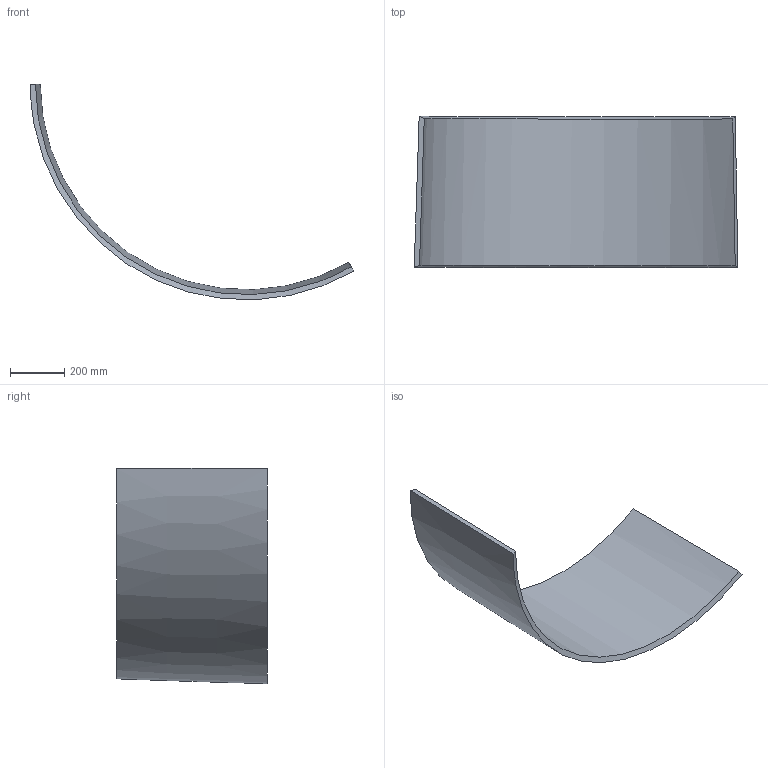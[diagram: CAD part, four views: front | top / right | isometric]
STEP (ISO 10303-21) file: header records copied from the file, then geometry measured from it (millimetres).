
FILE_DESCRIPTION (( 'STEP AP214' ), '1' );
FILE_NAME ('P3.STEP', '2025-01-09T19:43:26', ( '' ), ( '' ), 'SwSTEP 2.0', 'SolidWorks 2024', '' );
FILE_SCHEMA (( 'AUTOMOTIVE_DESIGN' ));
Length unit declared in the file: inch
Products named in the file (1): P3
Bounding box: 1191.58 x 555.62 x 792.85 mm (x, y, z)
Volume: 16948589.4 mm3; surface area: 1867566.2 mm2
Topology: 1 solids, 1 shells, 6 faces, 12 edges, 8 vertices
Faces by surface type: bspline 6
Entity records: 1427 total; most frequent: CARTESIAN_POINT 1313, ORIENTED_EDGE 24, B_SPLINE_CURVE_WITH_KNOTS 12, EDGE_CURVE 12, VERTEX_POINT 8, FACE_OUTER_BOUND 6, B_SPLINE_SURFACE_WITH_KNOTS 6, ADVANCED_FACE 6
